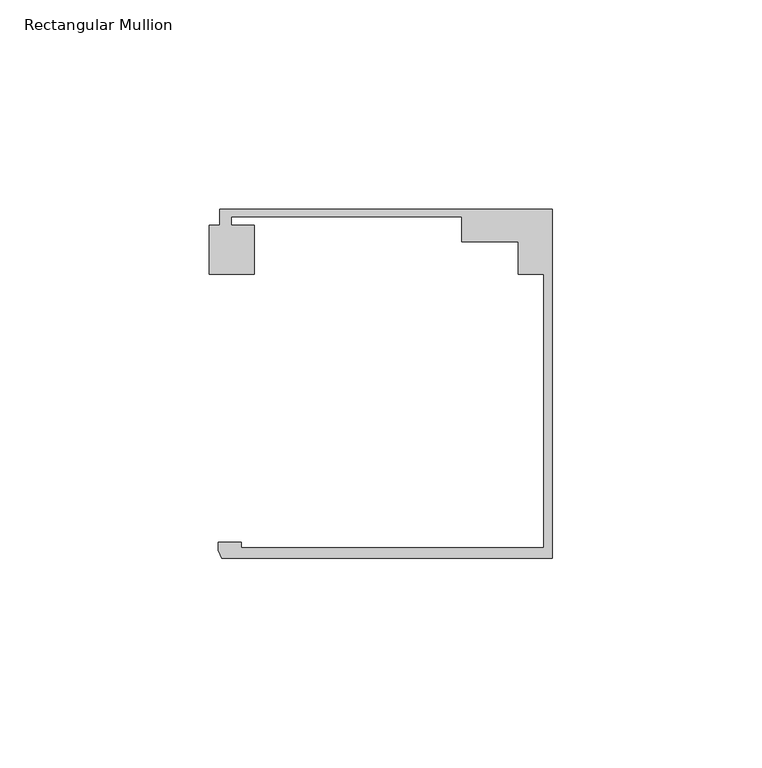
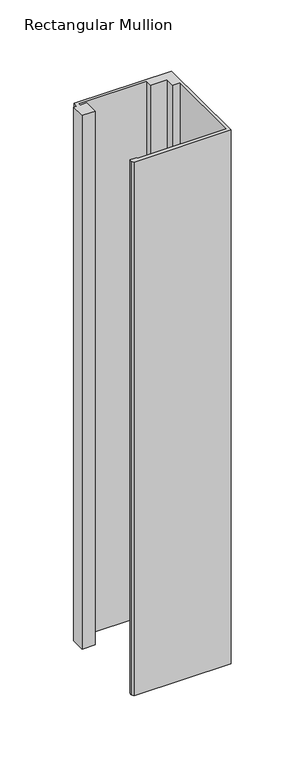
"""IFC4 building model written with IfcOpenShell, lengths in millimetres: member geometry, Rectangular Mullion : Danpal_Airpt_End-Mullion_B1."""

from ifc_helpers import new_model, si_unit, frame, origin, place, context, project, spatial, polyline, outline, extrude, source, transform, mapped, element, save


def rectangular_mullion_58b0a984(model_context):
    return source(origin(), model_context, "Body", "SweptSolid", [
        extrude(outline(polyline([(-74.2474668, -74.9940824), (-2.0000001, -74.9940824), (-2.0000001, -9.7188964), (-8.1, -9.7188964), (-8.1, -1.8818054), (-21.5478166, -1.8818054), (-21.5478166, 4.0051512), (-76.6478166, 4.0051512), (-76.6478166, 2.0051513), (-71.1433532, 2.0051513), (-71.1433532, -9.6875514), (-81.8592324, -9.6875514), (-81.8592324, 2.0051513), (-79.3474874, 2.0051513), (-79.3474874, 5.8051514), (0.0, 5.8051514), (0.0, -77.4940825), (-78.8515009, -77.4940825), (-79.7784606, -75.5472671), (-79.7784606, -73.6940824), (-74.2474668, -73.6940824), (-74.2474668, -74.9940824)])), frame((0.0, 0.0, -458.1991816), z_axis=(0.0, 0.0, 1.0), x_axis=(1.0, 0.0, 0.0)), (0.0, 0.0, 1.0), 458.1991816),
    ])


if __name__ == "__main__":
    model = new_model("IFC4")
    model_context = context("Model", 3, world=origin())
    ifc_project = project(units=[si_unit("LENGTHUNIT", "METRE", prefix="MILLI")], contexts=[model_context])
    site = spatial("IfcSite", under=ifc_project)
    building = spatial("IfcBuilding", under=site)
    placement = place(None, origin())
    rectangular_mullion_shape = rectangular_mullion_58b0a984(model_context)
    element("IfcMember", 1, ObjectType="Rectangular Mullion : Danpal_Airpt_End-Mullion_B1", at=placement, inside=building, context=model_context, shape_type="MappedRepresentation", body=[
        mapped(rectangular_mullion_shape, transform((0.0, 0.0, 0.0), x_axis=(1.0, 0.0, 0.0), y_axis=(0.0, 1.0, 0.0), z_axis=(0.0, 0.0, 1.0))),
    ])
    save(model, "model.ifc")
